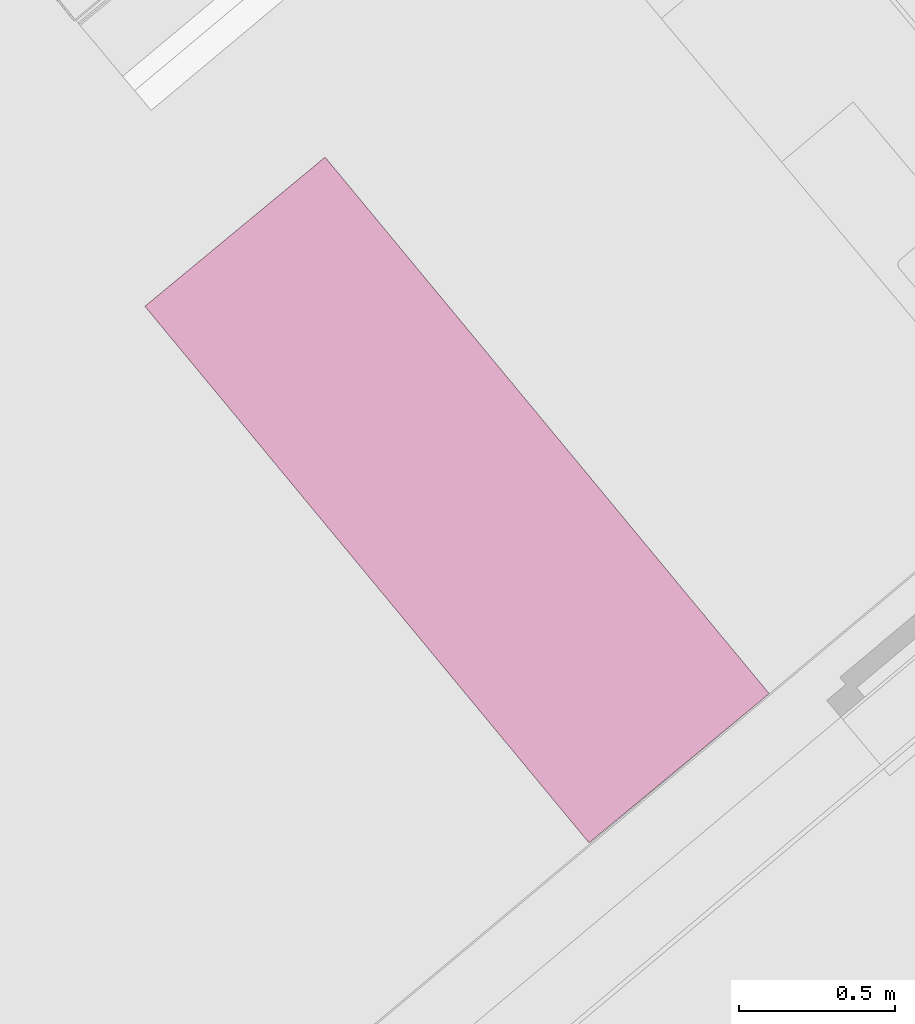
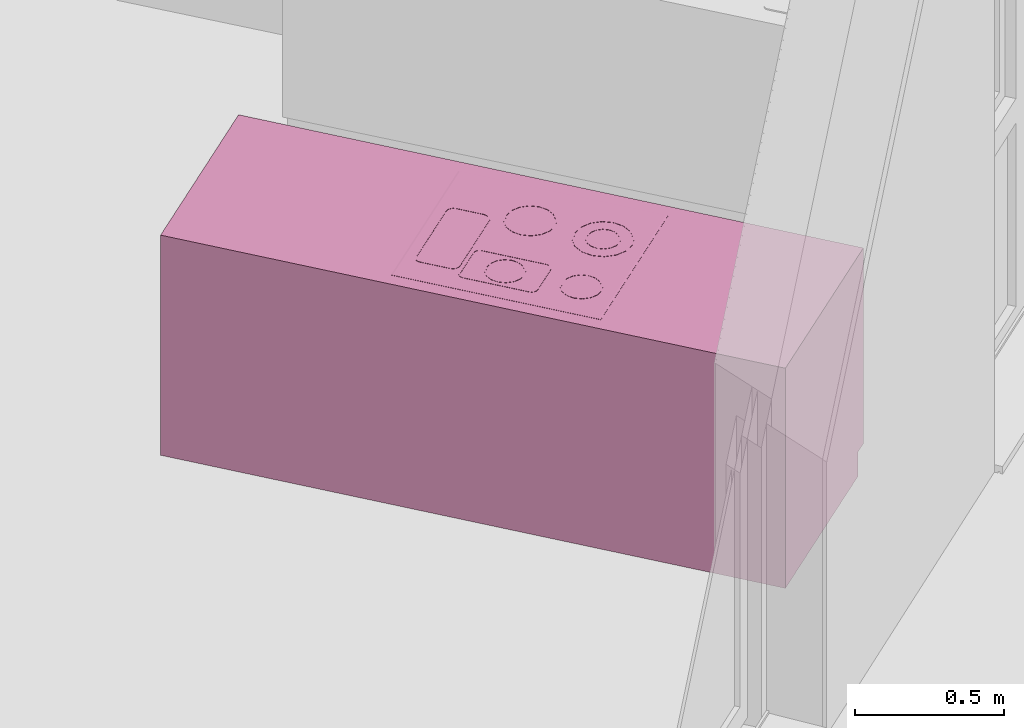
# One storey, part 46 of 47: 1 furniture element.
"""IFC4 building model written with IfcOpenShell, lengths in metres."""

from ifc_helpers import new_model, entity, si_unit, converted_unit, derived_unit, direction, frame, origin_with_axes, place, context, subcontext, project, spatial, polygons, source, transform, mapped, type_object, element, save


model = new_model("IFC4")

# Units and contexts
model_context = context("Model", 3, precision=1e-05, world=origin_with_axes(), true_north=direction((0.0, 1.0)))
body_context = subcontext(model_context, "Body", "Model", "MODEL_VIEW")
ifc_project = project(units=[si_unit("LENGTHUNIT", "METRE"), si_unit("AREAUNIT", "SQUARE_METRE"), si_unit("VOLUMEUNIT", "CUBIC_METRE"), converted_unit("PLANEANGLEUNIT", "DEGREE", entity("IfcPlaneAngleMeasure", 0.0174532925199), si_unit("PLANEANGLEUNIT", "RADIAN"), dimensions=[0, 0, 0, 0, 0, 0, 0]), converted_unit("TIMEUNIT", "Year", entity("IfcTimeMeasure", 31556926.0), si_unit("TIMEUNIT", "SECOND"), dimensions=[0, 0, 1, 0, 0, 0, 0]), si_unit("MASSUNIT", "GRAM", prefix="KILO"), si_unit("THERMODYNAMICTEMPERATUREUNIT", "DEGREE_CELSIUS"), si_unit("LUMINOUSINTENSITYUNIT", "LUMEN"), si_unit("ENERGYUNIT", "JOULE", prefix="MEGA"), derived_unit("THERMALCONDUCTANCEUNIT", [(si_unit("POWERUNIT", "WATT"), 1), (si_unit("LENGTHUNIT", "METRE"), -1), (si_unit("THERMODYNAMICTEMPERATUREUNIT", "KELVIN"), -1)]), derived_unit("SPECIFICHEATCAPACITYUNIT", [(si_unit("ENERGYUNIT", "JOULE"), 1), (si_unit("MASSUNIT", "GRAM", prefix="KILO"), -1), (si_unit("THERMODYNAMICTEMPERATUREUNIT", "KELVIN"), -1)]), derived_unit("MASSDENSITYUNIT", [(si_unit("MASSUNIT", "GRAM", prefix="KILO"), 1), (si_unit("VOLUMEUNIT", "CUBIC_METRE"), -1)])], contexts=[model_context])

# Site, building, storey
site_placement = place(None, frame((-0.00153261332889, -0.00661245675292, 0.0), z_axis=(0.0, 0.0, 1.0), x_axis=(1.0, 0.0, 0.0)))
site = spatial("IfcSite", under=ifc_project, at=site_placement, Name="Site", CompositionType="ELEMENT")
building_placement = place(site_placement, origin_with_axes())
building = spatial("IfcBuilding", under=site, at=building_placement, Name="Building", CompositionType="ELEMENT")
storey_placement = place(building_placement, frame((0.0, 0.0, 8.66), z_axis=(0.0, 0.0, 1.0), x_axis=(1.0, 0.0, 0.0)))
storey = spatial("IfcBuildingStorey", under=building, at=storey_placement, Name="DG2", CompositionType="ELEMENT", Elevation=8.66)

# Furniture
furniture_type = type_object("IfcFurnitureType", Name="Konzeptküche 26", AssemblyPlace="NOTDEFINED", PredefinedType="NOTDEFINED")
shared_shape = source(origin_with_axes(), body_context, "Body", "Tessellation", [
    polygons([(0.451386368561, 0.0111886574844, 0.0), (2.6840690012, -0.00300580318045, 0.0), (2.6840690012, -0.00300580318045, 0.1), (0.451386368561, 0.0111886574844, 0.1), (0.455836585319, 0.711174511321, 0.0), (2.68851921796, 0.696980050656, 0.0), (2.68851921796, 0.696980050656, 0.1), (0.455836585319, 0.711174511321, 0.1)], [[[1, 2, 3, 4]], [[1, 5, 6, 2]], [[2, 6, 7, 3]], [[4, 3, 7, 8]], [[5, 1, 4, 8]], [[6, 5, 8, 7]]], closed=True),
    polygons([(0.451386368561, 0.0111886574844, 0.85), (2.6840690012, -0.00300580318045, 0.85), (2.6840690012, -0.00300580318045, 0.9), (0.451386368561, 0.0111886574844, 0.9), (0.456154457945, 0.76117350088, 0.85), (2.68883709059, 0.746979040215, 0.85), (2.68883709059, 0.746979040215, 0.9), (0.456154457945, 0.76117350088, 0.9)], [[[1, 2, 3, 4]], [[1, 5, 6, 2]], [[2, 6, 7, 3]], [[4, 3, 7, 8]], [[5, 1, 4, 8]], [[6, 5, 8, 7]]], closed=True),
    polygons([(0.451386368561, 0.0111886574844, 0.1), (2.6840690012, -0.00300580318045, 0.1), (2.6840690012, -0.00300580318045, 0.85), (0.451386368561, 0.0111886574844, 0.85), (0.456154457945, 0.76117350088, 0.1), (2.68883709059, 0.746979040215, 0.1), (2.68883709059, 0.746979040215, 0.85), (0.456154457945, 0.76117350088, 0.85)], [[[1, 2, 3, 4]], [[1, 5, 6, 2]], [[2, 6, 7, 3]], [[4, 3, 7, 8]], [[5, 1, 4, 8]], [[6, 5, 8, 7]]], closed=True),
    polygons([(2.01007115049, 0.701293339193, 0.9), (2.00593880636, 0.0513064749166, 0.9), (1.25595396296, 0.0560745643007, 0.9), (1.26008630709, 0.706061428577, 0.9), (2.01007115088, 0.70129333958, 0.9008), (2.00593880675, 0.0513064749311, 0.9008), (1.25595396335, 0.0560745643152, 0.9008), (1.26008630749, 0.706061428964, 0.9008), (2.00322248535, 0.694531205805, 0.901999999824), (1.99917667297, 0.0581551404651, 0.901999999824), (1.26280262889, 0.0628366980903, 0.901999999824), (1.26684844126, 0.69921276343, 0.901999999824)], [[[1, 2, 3, 4]], [[2, 1, 5, 6]], [[3, 2, 6, 7]], [[4, 3, 7, 8]], [[1, 4, 8, 5]], [[6, 5, 9, 10]], [[7, 6, 10, 11]], [[8, 7, 11, 12]], [[5, 8, 12, 9]], [[11, 10, 9, 12]]], closed=True),
    polygons([(1.95268579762, 0.208298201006, 0.902), (1.94734355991, 0.236077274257, 0.902), (1.94734355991, 0.236077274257, 0.903), (1.95268579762, 0.208298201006, 0.903), (1.9469907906, 0.180589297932, 0.902), (1.93112555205, 0.157168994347, 0.902), (1.9075054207, 0.141602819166, 0.902), (1.87972634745, 0.136260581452, 0.902), (1.85201744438, 0.141955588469, 0.902), (1.82859714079, 0.157820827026, 0.902), (1.81303096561, 0.181440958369, 0.902), (1.8076887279, 0.20922003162, 0.902), (1.81338373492, 0.236928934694, 0.902), (1.82924897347, 0.260349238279, 0.902), (1.85286910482, 0.275915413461, 0.902), (1.88064817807, 0.281257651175, 0.902), (1.90835708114, 0.275562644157, 0.902), (1.93177738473, 0.259697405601, 0.902), (1.94768589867, 0.208329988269, 0.902), (1.94271209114, 0.234193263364, 0.902), (1.92821944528, 0.256184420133, 0.902), (1.90641433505, 0.270955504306, 0.902), (1.8806163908, 0.276257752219, 0.902), (1.85475311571, 0.271283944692, 0.902), (1.83276195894, 0.256791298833, 0.902), (1.81799087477, 0.234986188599, 0.902), (1.81268862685, 0.209188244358, 0.902), (1.81766243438, 0.183324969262, 0.902), (1.83215508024, 0.161333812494, 0.902), (1.85396019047, 0.146562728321, 0.902), (1.87975813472, 0.141260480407, 0.902), (1.90562140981, 0.146234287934, 0.902), (1.92761256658, 0.160726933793, 0.902), (1.94238365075, 0.182532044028, 0.902), (1.93177738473, 0.259697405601, 0.903), (1.90835708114, 0.275562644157, 0.903), (1.88064817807, 0.281257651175, 0.903), (1.85286910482, 0.275915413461, 0.903), (1.82924897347, 0.260349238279, 0.903), (1.81338373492, 0.236928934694, 0.903), (1.8076887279, 0.20922003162, 0.903), (1.81303096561, 0.181440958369, 0.903), (1.82859714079, 0.157820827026, 0.903), (1.85201744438, 0.141955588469, 0.903), (1.87972634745, 0.136260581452, 0.903), (1.9075054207, 0.141602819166, 0.903), (1.93112555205, 0.157168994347, 0.903), (1.9469907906, 0.180589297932, 0.903), (1.94768589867, 0.208329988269, 0.903), (1.94238365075, 0.182532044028, 0.903), (1.92761256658, 0.160726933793, 0.903), (1.90562140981, 0.146234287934, 0.903), (1.87975813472, 0.141260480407, 0.903), (1.85396019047, 0.146562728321, 0.903), (1.83215508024, 0.161333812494, 0.903), (1.81766243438, 0.183324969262, 0.903), (1.81268862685, 0.209188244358, 0.903), (1.81799087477, 0.234986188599, 0.903), (1.83276195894, 0.256791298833, 0.903), (1.85475311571, 0.271283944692, 0.903), (1.8806163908, 0.276257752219, 0.903), (1.90641433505, 0.270955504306, 0.903), (1.92821944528, 0.256184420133, 0.903), (1.94271209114, 0.234193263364, 0.903)], [[[1, 2, 3, 4]], [[1, 5, 6, 7, 8, 9, 10, 11, 12, 13, 14, 15, 16, 17, 18, 2], [19, 20, 21, 22, 23, 24, 25, 26, 27, 28, 29, 30, 31, 32, 33, 34]], [[2, 18, 35, 3]], [[4, 3, 35, 36, 37, 38, 39, 40, 41, 42, 43, 44, 45, 46, 47, 48], [49, 50, 51, 52, 53, 54, 55, 56, 57, 58, 59, 60, 61, 62, 63, 64]], [[5, 1, 4, 48]], [[6, 5, 48, 47]], [[7, 6, 47, 46]], [[8, 7, 46, 45]], [[9, 8, 45, 44]], [[10, 9, 44, 43]], [[11, 10, 43, 42]], [[12, 11, 42, 41]], [[13, 12, 41, 40]], [[14, 13, 40, 39]], [[15, 14, 39, 38]], [[16, 15, 38, 37]], [[17, 16, 37, 36]], [[18, 17, 36, 35]], [[20, 19, 49, 64]], [[21, 20, 64, 63]], [[22, 21, 63, 62]], [[23, 22, 62, 61]], [[24, 23, 61, 60]], [[25, 24, 60, 59]], [[26, 25, 59, 58]], [[27, 26, 58, 57]], [[28, 27, 57, 56]], [[29, 28, 56, 55]], [[30, 29, 55, 54]], [[31, 30, 54, 53]], [[32, 31, 53, 52]], [[33, 32, 52, 51]], [[34, 33, 51, 50]], [[19, 34, 50, 49]]], closed=True),
    polygons([(1.9127590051, 0.495207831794, 0.902), (1.90833784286, 0.518197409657, 0.902), (1.90833784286, 0.518197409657, 0.903), (1.9127590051, 0.495207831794, 0.903), (1.90804589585, 0.472276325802, 0.902), (1.89491604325, 0.452894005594, 0.902), (1.87536834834, 0.44001165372, 0.902), (1.85237877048, 0.435590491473, 0.902), (1.82944726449, 0.440303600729, 0.902), (1.81006494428, 0.453433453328, 0.902), (1.7971825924, 0.472981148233, 0.902), (1.79276143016, 0.495970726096, 0.902), (1.79747453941, 0.518902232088, 0.902), (1.81060439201, 0.538284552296, 0.902), (1.83015208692, 0.551166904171, 0.902), (1.85314166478, 0.555588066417, 0.902), (1.87607317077, 0.550874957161, 0.902), (1.89545549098, 0.537745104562, 0.902), (1.90775910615, 0.495239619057, 0.902), (1.90370637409, 0.516313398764, 0.902), (1.89189755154, 0.534232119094, 0.902), (1.87413042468, 0.546267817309, 0.902), (1.85310987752, 0.550588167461, 0.902), (1.83203609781, 0.546535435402, 0.902), (1.81411737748, 0.53472661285, 0.902), (1.80208167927, 0.516959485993, 0.902), (1.79776132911, 0.495938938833, 0.902), (1.80181406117, 0.474865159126, 0.902), (1.81362288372, 0.456946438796, 0.902), (1.83139001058, 0.444910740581, 0.902), (1.85241055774, 0.440590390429, 0.902), (1.87348433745, 0.444643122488, 0.902), (1.89140305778, 0.45645194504, 0.902), (1.90343875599, 0.474219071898, 0.902), (1.89545549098, 0.537745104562, 0.903), (1.87607317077, 0.550874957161, 0.903), (1.85314166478, 0.555588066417, 0.903), (1.83015208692, 0.551166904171, 0.903), (1.81060439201, 0.538284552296, 0.903), (1.79747453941, 0.518902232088, 0.903), (1.79276143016, 0.495970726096, 0.903), (1.7971825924, 0.472981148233, 0.903), (1.81006494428, 0.453433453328, 0.903), (1.82944726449, 0.440303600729, 0.903), (1.85237877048, 0.435590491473, 0.903), (1.87536834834, 0.44001165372, 0.903), (1.89491604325, 0.452894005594, 0.903), (1.90804589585, 0.472276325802, 0.903), (1.90775910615, 0.495239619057, 0.903), (1.90343875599, 0.474219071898, 0.903), (1.89140305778, 0.45645194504, 0.903), (1.87348433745, 0.444643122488, 0.903), (1.85241055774, 0.440590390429, 0.903), (1.83139001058, 0.444910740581, 0.903), (1.81362288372, 0.456946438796, 0.903), (1.80181406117, 0.474865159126, 0.903), (1.79776132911, 0.495938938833, 0.903), (1.80208167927, 0.516959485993, 0.903), (1.81411737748, 0.53472661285, 0.903), (1.83203609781, 0.546535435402, 0.903), (1.85310987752, 0.550588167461, 0.903), (1.87413042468, 0.546267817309, 0.903), (1.89189755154, 0.534232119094, 0.903), (1.90370637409, 0.516313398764, 0.903)], [[[1, 2, 3, 4]], [[1, 5, 6, 7, 8, 9, 10, 11, 12, 13, 14, 15, 16, 17, 18, 2], [19, 20, 21, 22, 23, 24, 25, 26, 27, 28, 29, 30, 31, 32, 33, 34]], [[2, 18, 35, 3]], [[4, 3, 35, 36, 37, 38, 39, 40, 41, 42, 43, 44, 45, 46, 47, 48], [49, 50, 51, 52, 53, 54, 55, 56, 57, 58, 59, 60, 61, 62, 63, 64]], [[5, 1, 4, 48]], [[6, 5, 48, 47]], [[7, 6, 47, 46]], [[8, 7, 46, 45]], [[9, 8, 45, 44]], [[10, 9, 44, 43]], [[11, 10, 43, 42]], [[12, 11, 42, 41]], [[13, 12, 41, 40]], [[14, 13, 40, 39]], [[15, 14, 39, 38]], [[16, 15, 38, 37]], [[17, 16, 37, 36]], [[18, 17, 36, 35]], [[20, 19, 49, 64]], [[21, 20, 64, 63]], [[22, 21, 63, 62]], [[23, 22, 62, 61]], [[24, 23, 61, 60]], [[25, 24, 60, 59]], [[26, 25, 59, 58]], [[27, 26, 58, 57]], [[28, 27, 57, 56]], [[29, 28, 56, 55]], [[30, 29, 55, 54]], [[31, 30, 54, 53]], [[32, 31, 53, 52]], [[33, 32, 52, 51]], [[34, 33, 51, 50]], [[19, 34, 50, 49]]], closed=True),
    polygons([(1.95775809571, 0.494921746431, 0.902), (1.95002106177, 0.535153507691, 0.902), (1.95002106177, 0.535153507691, 0.903), (1.95775809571, 0.494921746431, 0.903), (1.94951015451, 0.454791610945, 0.902), (1.92653291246, 0.420872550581, 0.902), (1.89232444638, 0.3983284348, 0.902), (1.85209268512, 0.39059140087, 0.902), (1.81196254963, 0.398839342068, 0.902), (1.77804348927, 0.421816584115, 0.902), (1.75549937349, 0.456025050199, 0.902), (1.74776233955, 0.496256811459, 0.902), (1.75601028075, 0.536386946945, 0.902), (1.7789875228, 0.57030600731, 0.902), (1.81319598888, 0.59285012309, 0.902), (1.85342775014, 0.60058715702, 0.902), (1.89355788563, 0.592339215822, 0.902), (1.92747694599, 0.569361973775, 0.902), (1.95275819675, 0.494953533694, 0.902), (1.94538959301, 0.533269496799, 0.902), (1.92391900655, 0.565848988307, 0.902), (1.89161513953, 0.587732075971, 0.902), (1.85339596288, 0.595587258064, 0.902), (1.81507999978, 0.588218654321, 0.902), (1.78250050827, 0.566748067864, 0.902), (1.7606174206, 0.53444420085, 0.902), (1.75276223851, 0.496225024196, 0.902), (1.76013084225, 0.457909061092, 0.902), (1.78160142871, 0.425329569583, 0.902), (1.81390529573, 0.403446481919, 0.902), (1.85212447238, 0.395591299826, 0.902), (1.89044043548, 0.402959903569, 0.902), (1.92301992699, 0.424430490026, 0.902), (1.94490301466, 0.456734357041, 0.902), (1.92747694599, 0.569361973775, 0.903), (1.89355788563, 0.592339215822, 0.903), (1.85342775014, 0.60058715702, 0.903), (1.81319598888, 0.59285012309, 0.903), (1.7789875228, 0.57030600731, 0.903), (1.75601028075, 0.536386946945, 0.903), (1.74776233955, 0.496256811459, 0.903), (1.75549937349, 0.456025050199, 0.903), (1.77804348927, 0.421816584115, 0.903), (1.81196254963, 0.398839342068, 0.903), (1.85209268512, 0.39059140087, 0.903), (1.89232444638, 0.3983284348, 0.903), (1.92653291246, 0.420872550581, 0.903), (1.94951015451, 0.454791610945, 0.903), (1.95275819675, 0.494953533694, 0.903), (1.94490301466, 0.456734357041, 0.903), (1.92301992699, 0.424430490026, 0.903), (1.89044043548, 0.402959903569, 0.903), (1.85212447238, 0.395591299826, 0.903), (1.81390529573, 0.403446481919, 0.903), (1.78160142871, 0.425329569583, 0.903), (1.76013084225, 0.457909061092, 0.903), (1.75276223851, 0.496225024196, 0.903), (1.7606174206, 0.53444420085, 0.903), (1.78250050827, 0.566748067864, 0.903), (1.81507999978, 0.588218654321, 0.903), (1.85339596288, 0.595587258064, 0.903), (1.89161513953, 0.587732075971, 0.903), (1.92391900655, 0.565848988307, 0.903), (1.94538959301, 0.533269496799, 0.903)], [[[1, 2, 3, 4]], [[1, 5, 6, 7, 8, 9, 10, 11, 12, 13, 14, 15, 16, 17, 18, 2], [19, 20, 21, 22, 23, 24, 25, 26, 27, 28, 29, 30, 31, 32, 33, 34]], [[2, 18, 35, 3]], [[4, 3, 35, 36, 37, 38, 39, 40, 41, 42, 43, 44, 45, 46, 47, 48], [49, 50, 51, 52, 53, 54, 55, 56, 57, 58, 59, 60, 61, 62, 63, 64]], [[5, 1, 4, 48]], [[6, 5, 48, 47]], [[7, 6, 47, 46]], [[8, 7, 46, 45]], [[9, 8, 45, 44]], [[10, 9, 44, 43]], [[11, 10, 43, 42]], [[12, 11, 42, 41]], [[13, 12, 41, 40]], [[14, 13, 40, 39]], [[15, 14, 39, 38]], [[16, 15, 38, 37]], [[17, 16, 37, 36]], [[18, 17, 36, 35]], [[20, 19, 49, 64]], [[21, 20, 64, 63]], [[22, 21, 63, 62]], [[23, 22, 62, 61]], [[24, 23, 61, 60]], [[25, 24, 60, 59]], [[26, 25, 59, 58]], [[27, 26, 58, 57]], [[28, 27, 57, 56]], [[29, 28, 56, 55]], [[30, 29, 55, 54]], [[31, 30, 54, 53]], [[32, 31, 53, 52]], [[33, 32, 52, 51]], [[34, 33, 51, 50]], [[19, 34, 50, 49]]], closed=True),
    polygons([(1.67867067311, 0.206790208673, 0.902), (1.67351265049, 0.233611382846, 0.902), (1.67351265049, 0.233611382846, 0.903), (1.67867067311, 0.206790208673, 0.903), (1.67317204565, 0.180036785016, 0.902), (1.65785388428, 0.157424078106, 0.902), (1.63504824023, 0.142394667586, 0.902), (1.60822706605, 0.137236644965, 0.902), (1.5814736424, 0.142735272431, 0.902), (1.55886093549, 0.158053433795, 0.902), (1.54383152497, 0.180859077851, 0.902), (1.53867350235, 0.207680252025, 0.902), (1.54417212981, 0.234433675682, 0.902), (1.55949029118, 0.257046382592, 0.902), (1.58229593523, 0.272075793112, 0.902), (1.60911710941, 0.277233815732, 0.902), (1.63587053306, 0.271735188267, 0.902), (1.65848323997, 0.256417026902, 0.902), (1.67367077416, 0.206821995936, 0.902), (1.66888118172, 0.231727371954, 0.902), (1.65492530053, 0.252904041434, 0.902), (1.63392778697, 0.267128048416, 0.902), (1.60908532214, 0.272233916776, 0.902), (1.58417994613, 0.267444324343, 0.902), (1.56300327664, 0.253488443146, 0.902), (1.54877926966, 0.232490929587, 0.902), (1.5436734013, 0.207648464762, 0.902), (1.54846299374, 0.182743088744, 0.902), (1.56241887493, 0.161566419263, 0.902), (1.58341638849, 0.147342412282, 0.902), (1.60825885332, 0.142236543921, 0.902), (1.63316422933, 0.147026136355, 0.902), (1.65434089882, 0.160982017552, 0.902), (1.6685649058, 0.181979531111, 0.902), (1.65848323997, 0.256417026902, 0.903), (1.63587053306, 0.271735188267, 0.903), (1.60911710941, 0.277233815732, 0.903), (1.58229593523, 0.272075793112, 0.903), (1.55949029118, 0.257046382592, 0.903), (1.54417212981, 0.234433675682, 0.903), (1.53867350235, 0.207680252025, 0.903), (1.54383152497, 0.180859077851, 0.903), (1.55886093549, 0.158053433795, 0.903), (1.5814736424, 0.142735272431, 0.903), (1.60822706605, 0.137236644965, 0.903), (1.63504824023, 0.142394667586, 0.903), (1.65785388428, 0.157424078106, 0.903), (1.67317204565, 0.180036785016, 0.903), (1.67367077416, 0.206821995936, 0.903), (1.6685649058, 0.181979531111, 0.903), (1.65434089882, 0.160982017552, 0.903), (1.63316422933, 0.147026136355, 0.903), (1.60825885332, 0.142236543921, 0.903), (1.58341638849, 0.147342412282, 0.903), (1.56241887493, 0.161566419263, 0.903), (1.54846299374, 0.182743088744, 0.903), (1.5436734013, 0.207648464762, 0.903), (1.54877926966, 0.232490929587, 0.903), (1.56300327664, 0.253488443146, 0.903), (1.58417994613, 0.267444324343, 0.903), (1.60908532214, 0.272233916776, 0.903), (1.63392778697, 0.267128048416, 0.903), (1.65492530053, 0.252904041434, 0.903), (1.66888118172, 0.231727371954, 0.903)], [[[1, 2, 3, 4]], [[1, 5, 6, 7, 8, 9, 10, 11, 12, 13, 14, 15, 16, 17, 18, 2], [19, 20, 21, 22, 23, 24, 25, 26, 27, 28, 29, 30, 31, 32, 33, 34]], [[2, 18, 35, 3]], [[4, 3, 35, 36, 37, 38, 39, 40, 41, 42, 43, 44, 45, 46, 47, 48], [49, 50, 51, 52, 53, 54, 55, 56, 57, 58, 59, 60, 61, 62, 63, 64]], [[5, 1, 4, 48]], [[6, 5, 48, 47]], [[7, 6, 47, 46]], [[8, 7, 46, 45]], [[9, 8, 45, 44]], [[10, 9, 44, 43]], [[11, 10, 43, 42]], [[12, 11, 42, 41]], [[13, 12, 41, 40]], [[14, 13, 40, 39]], [[15, 14, 39, 38]], [[16, 15, 38, 37]], [[17, 16, 37, 36]], [[18, 17, 36, 35]], [[20, 19, 49, 64]], [[21, 20, 64, 63]], [[22, 21, 63, 62]], [[23, 22, 62, 61]], [[24, 23, 61, 60]], [[25, 24, 60, 59]], [[26, 25, 59, 58]], [[27, 26, 58, 57]], [[28, 27, 57, 56]], [[29, 28, 56, 55]], [[30, 29, 55, 54]], [[31, 30, 54, 53]], [[32, 31, 53, 52]], [[33, 32, 52, 51]], [[34, 33, 51, 50]], [[19, 34, 50, 49]]], closed=True),
    polygons([(1.67698381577, 0.511657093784, 0.902), (1.6703520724, 0.546141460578, 0.902), (1.6703520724, 0.546141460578, 0.903), (1.67698381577, 0.511657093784, 0.903), (1.66991415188, 0.477259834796, 0.902), (1.65021937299, 0.448186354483, 0.902), (1.62089783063, 0.428862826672, 0.902), (1.58641346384, 0.422231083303, 0.902), (1.55201620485, 0.429300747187, 0.902), (1.52294272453, 0.448995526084, 0.902), (1.50361919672, 0.478317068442, 0.902), (1.49698745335, 0.512801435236, 0.902), (1.50405711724, 0.547198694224, 0.902), (1.52375189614, 0.576272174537, 0.902), (1.55307343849, 0.595595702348, 0.902), (1.58755780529, 0.602227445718, 0.902), (1.62195506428, 0.595157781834, 0.902), (1.65102854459, 0.575463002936, 0.902), (1.67198391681, 0.511688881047, 0.902), (1.66572060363, 0.544257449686, 0.902), (1.64747060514, 0.571950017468, 0.902), (1.62001231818, 0.590550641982, 0.902), (1.58752601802, 0.597227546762, 0.902), (1.55495744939, 0.590964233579, 0.902), (1.5272648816, 0.572714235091, 0.902), (1.50866425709, 0.545255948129, 0.902), (1.50198735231, 0.512769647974, 0.902), (1.50825066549, 0.480201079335, 0.902), (1.52650066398, 0.452508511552, 0.902), (1.55395895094, 0.433907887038, 0.902), (1.5864452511, 0.427230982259, 0.902), (1.61901381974, 0.433494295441, 0.902), (1.64670638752, 0.451744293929, 0.902), (1.66530701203, 0.479202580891, 0.902), (1.65102854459, 0.575463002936, 0.903), (1.62195506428, 0.595157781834, 0.903), (1.58755780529, 0.602227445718, 0.903), (1.55307343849, 0.595595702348, 0.903), (1.52375189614, 0.576272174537, 0.903), (1.50405711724, 0.547198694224, 0.903), (1.49698745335, 0.512801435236, 0.903), (1.50361919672, 0.478317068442, 0.903), (1.52294272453, 0.448995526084, 0.903), (1.55201620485, 0.429300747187, 0.903), (1.58641346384, 0.422231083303, 0.903), (1.62089783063, 0.428862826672, 0.903), (1.65021937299, 0.448186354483, 0.903), (1.66991415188, 0.477259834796, 0.903), (1.67198391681, 0.511688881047, 0.903), (1.66530701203, 0.479202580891, 0.903), (1.64670638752, 0.451744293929, 0.903), (1.61901381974, 0.433494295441, 0.903), (1.5864452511, 0.427230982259, 0.903), (1.55395895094, 0.433907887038, 0.903), (1.52650066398, 0.452508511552, 0.903), (1.50825066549, 0.480201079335, 0.903), (1.50198735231, 0.512769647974, 0.903), (1.50866425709, 0.545255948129, 0.903), (1.5272648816, 0.572714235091, 0.903), (1.55495744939, 0.590964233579, 0.903), (1.58752601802, 0.597227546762, 0.903), (1.62001231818, 0.590550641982, 0.903), (1.64747060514, 0.571950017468, 0.903), (1.66572060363, 0.544257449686, 0.903)], [[[1, 2, 3, 4]], [[1, 5, 6, 7, 8, 9, 10, 11, 12, 13, 14, 15, 16, 17, 18, 2], [19, 20, 21, 22, 23, 24, 25, 26, 27, 28, 29, 30, 31, 32, 33, 34]], [[2, 18, 35, 3]], [[4, 3, 35, 36, 37, 38, 39, 40, 41, 42, 43, 44, 45, 46, 47, 48], [49, 50, 51, 52, 53, 54, 55, 56, 57, 58, 59, 60, 61, 62, 63, 64]], [[5, 1, 4, 48]], [[6, 5, 48, 47]], [[7, 6, 47, 46]], [[8, 7, 46, 45]], [[9, 8, 45, 44]], [[10, 9, 44, 43]], [[11, 10, 43, 42]], [[12, 11, 42, 41]], [[13, 12, 41, 40]], [[14, 13, 40, 39]], [[15, 14, 39, 38]], [[16, 15, 38, 37]], [[17, 16, 37, 36]], [[18, 17, 36, 35]], [[20, 19, 49, 64]], [[21, 20, 64, 63]], [[22, 21, 63, 62]], [[23, 22, 62, 61]], [[24, 23, 61, 60]], [[25, 24, 60, 59]], [[26, 25, 59, 58]], [[27, 26, 58, 57]], [[28, 27, 57, 56]], [[29, 28, 56, 55]], [[30, 29, 55, 54]], [[31, 30, 54, 53]], [[32, 31, 53, 52]], [[33, 32, 52, 51]], [[34, 33, 51, 50]], [[19, 34, 50, 49]]], closed=True),
    polygons([(1.72815115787, 0.294201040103, 0.902), (1.49030841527, 0.295713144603, 0.902), (1.49030841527, 0.295713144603, 0.903), (1.72815115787, 0.294201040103, 0.903), (1.73655937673, 0.292472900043, 0.902), (1.74366622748, 0.287658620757, 0.902), (1.7483897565, 0.280491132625, 0.902), (1.75001084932, 0.272061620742, 0.902), (1.74917517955, 0.140617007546, 0.902), (1.74744703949, 0.132208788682, 0.902), (1.7426327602, 0.125101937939, 0.902), (1.73546527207, 0.120378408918, 0.902), (1.72703576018, 0.118757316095, 0.902), (1.48919301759, 0.120269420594, 0.902), (1.48078479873, 0.121997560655, 0.902), (1.47367794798, 0.126811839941, 0.902), (1.46895441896, 0.133979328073, 0.902), (1.46733332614, 0.142408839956, 0.902), (1.46816899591, 0.273853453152, 0.902), (1.46989713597, 0.282261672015, 0.902), (1.47471141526, 0.289368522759, 0.902), (1.48187890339, 0.294092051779, 0.902), (1.72406760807, 0.123776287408, 0.902), (1.73173080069, 0.125250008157, 0.902), (1.738246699, 0.129544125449, 0.902), (1.74262331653, 0.136004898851, 0.902), (1.74419435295, 0.143648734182, 0.902), (1.74499187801, 0.269093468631, 0.902), (1.74351815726, 0.276756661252, 0.902), (1.73922403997, 0.283272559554, 0.902), (1.73276326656, 0.287649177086, 0.902), (1.72511943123, 0.289220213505, 0.902), (1.49327656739, 0.290694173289, 0.902), (1.48561337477, 0.28922045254, 0.902), (1.47909747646, 0.284926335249, 0.902), (1.47472085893, 0.278465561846, 0.902), (1.47314982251, 0.270821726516, 0.902), (1.47235229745, 0.145376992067, 0.902), (1.4738260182, 0.137713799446, 0.902), (1.47812013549, 0.131197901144, 0.902), (1.4845809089, 0.126821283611, 0.902), (1.49222474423, 0.125250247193, 0.902), (1.48187890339, 0.294092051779, 0.903), (1.47471141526, 0.289368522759, 0.903), (1.46989713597, 0.282261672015, 0.903), (1.46816899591, 0.273853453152, 0.903), (1.46733332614, 0.142408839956, 0.903), (1.46895441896, 0.133979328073, 0.903), (1.47367794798, 0.126811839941, 0.903), (1.48078479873, 0.121997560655, 0.903), (1.48919301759, 0.120269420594, 0.903), (1.72703576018, 0.118757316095, 0.903), (1.73546527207, 0.120378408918, 0.903), (1.7426327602, 0.125101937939, 0.903), (1.74744703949, 0.132208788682, 0.903), (1.74917517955, 0.140617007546, 0.903), (1.75001084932, 0.272061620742, 0.903), (1.7483897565, 0.280491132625, 0.903), (1.74366622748, 0.287658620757, 0.903), (1.73655937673, 0.292472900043, 0.903), (1.72406760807, 0.123776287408, 0.903), (1.49222474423, 0.125250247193, 0.903), (1.4845809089, 0.126821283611, 0.903), (1.47812013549, 0.131197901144, 0.903), (1.4738260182, 0.137713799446, 0.903), (1.47235229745, 0.145376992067, 0.903), (1.47314982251, 0.270821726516, 0.903), (1.47472085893, 0.278465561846, 0.903), (1.47909747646, 0.284926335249, 0.903), (1.48561337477, 0.28922045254, 0.903), (1.49327656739, 0.290694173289, 0.903), (1.72511943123, 0.289220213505, 0.903), (1.73276326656, 0.287649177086, 0.903), (1.73922403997, 0.283272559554, 0.903), (1.74351815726, 0.276756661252, 0.903), (1.74499187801, 0.269093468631, 0.903), (1.74419435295, 0.143648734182, 0.903), (1.74262331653, 0.136004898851, 0.903), (1.738246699, 0.129544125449, 0.903), (1.73173080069, 0.125250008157, 0.903)], [[[1, 2, 3, 4]], [[1, 5, 6, 7, 8, 9, 10, 11, 12, 13, 14, 15, 16, 17, 18, 19, 20, 21, 22, 2], [23, 24, 25, 26, 27, 28, 29, 30, 31, 32, 33, 34, 35, 36, 37, 38, 39, 40, 41, 42]], [[2, 22, 43, 3]], [[4, 3, 43, 44, 45, 46, 47, 48, 49, 50, 51, 52, 53, 54, 55, 56, 57, 58, 59, 60], [61, 62, 63, 64, 65, 66, 67, 68, 69, 70, 71, 72, 73, 74, 75, 76, 77, 78, 79, 80]], [[5, 1, 4, 60]], [[6, 5, 60, 59]], [[7, 6, 59, 58]], [[8, 7, 58, 57]], [[9, 8, 57, 56]], [[10, 9, 56, 55]], [[11, 10, 55, 54]], [[12, 11, 54, 53]], [[13, 12, 53, 52]], [[14, 13, 52, 51]], [[15, 14, 51, 50]], [[16, 15, 50, 49]], [[17, 16, 49, 48]], [[18, 17, 48, 47]], [[19, 18, 47, 46]], [[20, 19, 46, 45]], [[21, 20, 45, 44]], [[22, 21, 44, 43]], [[24, 23, 61, 80]], [[25, 24, 80, 79]], [[26, 25, 79, 78]], [[27, 26, 78, 77]], [[28, 27, 77, 76]], [[29, 28, 76, 75]], [[30, 29, 75, 74]], [[31, 30, 74, 73]], [[32, 31, 73, 72]], [[33, 32, 72, 71]], [[34, 33, 71, 70]], [[35, 34, 70, 69]], [[36, 35, 69, 68]], [[37, 36, 68, 67]], [[38, 37, 67, 66]], [[39, 38, 66, 65]], [[40, 39, 65, 64]], [[41, 40, 64, 63]], [[42, 41, 63, 62]], [[23, 42, 62, 61]]], closed=True),
    polygons([(1.45676176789, 0.182500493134, 0.902), (1.45859271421, 0.470494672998, 0.902), (1.45859271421, 0.470494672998, 0.903), (1.45676176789, 0.182500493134, 0.903), (1.45471942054, 0.172563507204, 0.902), (1.44902981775, 0.16416450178, 0.902), (1.44055914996, 0.158582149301, 0.902), (1.43059699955, 0.156666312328, 0.902), (1.3225991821, 0.157352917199, 0.902), (1.31266219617, 0.159395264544, 0.902), (1.30426319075, 0.165084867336, 0.902), (1.29868083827, 0.173555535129, 0.902), (1.2967650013, 0.183517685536, 0.902), (1.29859594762, 0.4715118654, 0.902), (1.30063829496, 0.48144885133, 0.902), (1.30632789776, 0.489847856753, 0.902), (1.31479856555, 0.495430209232, 0.902), (1.32476071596, 0.497346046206, 0.902), (1.4327585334, 0.496659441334, 0.902), (1.44269551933, 0.49461709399, 0.902), (1.45109452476, 0.488927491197, 0.902), (1.45667687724, 0.480456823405, 0.902), (1.42562888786, 0.161697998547, 0.902), (1.43559103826, 0.16361383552, 0.902), (1.44406170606, 0.169196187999, 0.902), (1.44975130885, 0.177595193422, 0.902), (1.45179365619, 0.187532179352, 0.902), (1.45356102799, 0.465526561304, 0.902), (1.45164519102, 0.475488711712, 0.902), (1.44606283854, 0.483959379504, 0.902), (1.43766383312, 0.489648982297, 0.902), (1.42772684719, 0.491691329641, 0.902), (1.32972882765, 0.492314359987, 0.902), (1.31976667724, 0.490398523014, 0.902), (1.31129600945, 0.484816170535, 0.902), (1.30560640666, 0.476417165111, 0.902), (1.30356405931, 0.466480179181, 0.902), (1.30179668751, 0.188485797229, 0.902), (1.30371252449, 0.178523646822, 0.902), (1.30929487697, 0.17005297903, 0.902), (1.31769388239, 0.164363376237, 0.902), (1.32763086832, 0.162321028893, 0.902), (1.45667687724, 0.480456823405, 0.903), (1.45109452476, 0.488927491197, 0.903), (1.44269551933, 0.49461709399, 0.903), (1.4327585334, 0.496659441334, 0.903), (1.32476071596, 0.497346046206, 0.903), (1.31479856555, 0.495430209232, 0.903), (1.30632789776, 0.489847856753, 0.903), (1.30063829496, 0.48144885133, 0.903), (1.29859594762, 0.4715118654, 0.903), (1.2967650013, 0.183517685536, 0.903), (1.29868083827, 0.173555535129, 0.903), (1.30426319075, 0.165084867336, 0.903), (1.31266219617, 0.159395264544, 0.903), (1.3225991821, 0.157352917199, 0.903), (1.43059699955, 0.156666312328, 0.903), (1.44055914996, 0.158582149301, 0.903), (1.44902981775, 0.16416450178, 0.903), (1.45471942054, 0.172563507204, 0.903), (1.42562888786, 0.161697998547, 0.903), (1.32763086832, 0.162321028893, 0.903), (1.31769388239, 0.164363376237, 0.903), (1.30929487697, 0.17005297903, 0.903), (1.30371252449, 0.178523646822, 0.903), (1.30179668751, 0.188485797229, 0.903), (1.30356405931, 0.466480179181, 0.903), (1.30560640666, 0.476417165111, 0.903), (1.31129600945, 0.484816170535, 0.903), (1.31976667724, 0.490398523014, 0.903), (1.32972882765, 0.492314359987, 0.903), (1.42772684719, 0.491691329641, 0.903), (1.43766383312, 0.489648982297, 0.903), (1.44606283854, 0.483959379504, 0.903), (1.45164519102, 0.475488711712, 0.903), (1.45356102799, 0.465526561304, 0.903), (1.45179365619, 0.187532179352, 0.903), (1.44975130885, 0.177595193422, 0.903), (1.44406170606, 0.169196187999, 0.903), (1.43559103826, 0.16361383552, 0.903)], [[[1, 2, 3, 4]], [[1, 5, 6, 7, 8, 9, 10, 11, 12, 13, 14, 15, 16, 17, 18, 19, 20, 21, 22, 2], [23, 24, 25, 26, 27, 28, 29, 30, 31, 32, 33, 34, 35, 36, 37, 38, 39, 40, 41, 42]], [[2, 22, 43, 3]], [[4, 3, 43, 44, 45, 46, 47, 48, 49, 50, 51, 52, 53, 54, 55, 56, 57, 58, 59, 60], [61, 62, 63, 64, 65, 66, 67, 68, 69, 70, 71, 72, 73, 74, 75, 76, 77, 78, 79, 80]], [[5, 1, 4, 60]], [[6, 5, 60, 59]], [[7, 6, 59, 58]], [[8, 7, 58, 57]], [[9, 8, 57, 56]], [[10, 9, 56, 55]], [[11, 10, 55, 54]], [[12, 11, 54, 53]], [[13, 12, 53, 52]], [[14, 13, 52, 51]], [[15, 14, 51, 50]], [[16, 15, 50, 49]], [[17, 16, 49, 48]], [[18, 17, 48, 47]], [[19, 18, 47, 46]], [[20, 19, 46, 45]], [[21, 20, 45, 44]], [[22, 21, 44, 43]], [[24, 23, 61, 80]], [[25, 24, 80, 79]], [[26, 25, 79, 78]], [[27, 26, 78, 77]], [[28, 27, 77, 76]], [[29, 28, 76, 75]], [[30, 29, 75, 74]], [[31, 30, 74, 73]], [[32, 31, 73, 72]], [[33, 32, 72, 71]], [[34, 33, 71, 70]], [[35, 34, 70, 69]], [[36, 35, 69, 68]], [[37, 36, 68, 67]], [[38, 37, 67, 66]], [[39, 38, 66, 65]], [[40, 39, 65, 64]], [[41, 40, 64, 63]], [[42, 41, 63, 62]], [[23, 42, 62, 61]]], closed=True),
])
furniture_placement = place(storey_placement, frame((-1.19211577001, 18.3900714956, 0.22), z_axis=(0.0, 0.0, 1.0), x_axis=(0.642552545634, -0.766241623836, 0.0)))
element("IfcFurniture", 1, at=furniture_placement, inside=storey, type_object=furniture_type, Name="Objekt-0002", PredefinedType="NOTDEFINED", context=body_context, shape_type="MappedRepresentation", body=[
    mapped(shared_shape, transform((0.0, 0.0, 0.0))),
])

save(model, "model.ifc")
